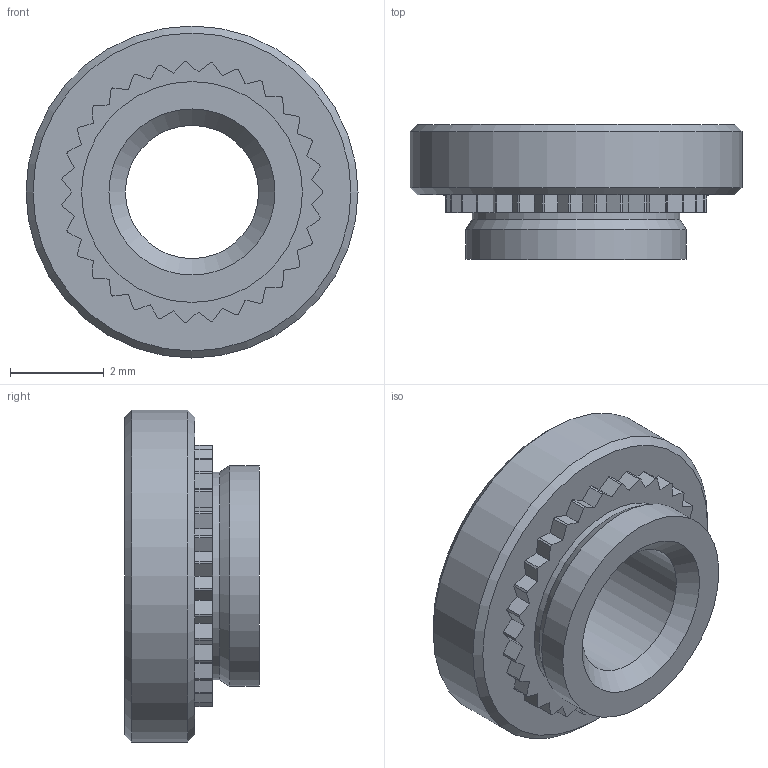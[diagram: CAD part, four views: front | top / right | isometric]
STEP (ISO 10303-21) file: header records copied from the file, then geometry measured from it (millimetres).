
FILE_DESCRIPTION(/* description */ (''),/* implementation_level */ '2;1');
FILE_NAME(/* name */ 'C:\Users\keval.kumar\Desktop\Fastit\Clinch nut\M3.5\Clinch Nut_M3.5_2.stp',/* time_stamp */ '2024-03-14T09:34:44+05:00',/* author */ ('keval.kumar'),/* organization */ (''),/* preprocessor_version */ 'ST-DEVELOPER v18.1',/* originating_system */ 'Autodesk Inventor 2022',/* authorisation */ '');
FILE_SCHEMA (('AUTOMOTIVE_DESIGN { 1 0 10303 214 3 1 1 }'));
Length unit declared in the file: millimetre
Products named in the file (1): Clinch Nut_M3.5_2
Bounding box: 7.1 x 2.88 x 7.1 mm (x, y, z)
Volume: 65 mm3; surface area: 144 mm2
Topology: 1 solids, 1 shells, 106 faces, 303 edges, 201 vertices
Faces by surface type: plane 66, cylinder 35, cone 5
Full cylindrical faces by diameter (mm): 2.85 x1, 4.44 x1, 4.72 x1, 7.1 x1
Entity records: 3507 total; most frequent: CARTESIAN_POINT 611, ORIENTED_EDGE 606, DIRECTION 594, EDGE_CURVE 303, LINE 226, VECTOR 226, VERTEX_POINT 201, AXIS2_PLACEMENT_3D 184
